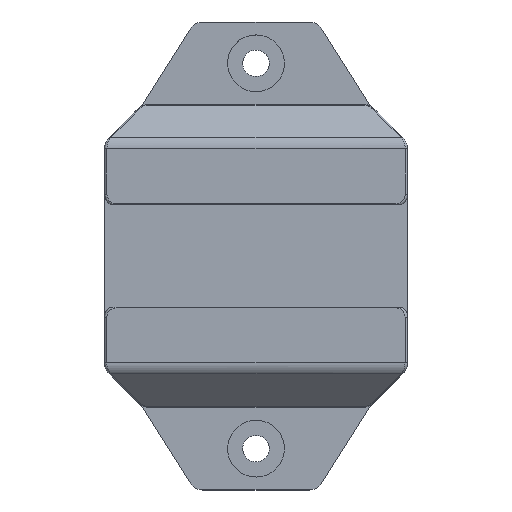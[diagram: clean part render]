
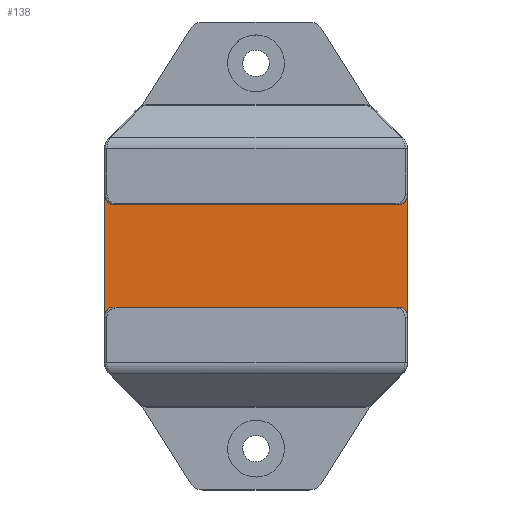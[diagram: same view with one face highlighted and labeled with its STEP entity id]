
A CAD part, top view. The second image highlights one B-rep face of the part: STEP entity #138.
In plain terms, the highlighted planar face has unit normal (0, 0, 1).
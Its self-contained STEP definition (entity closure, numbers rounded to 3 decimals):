
#138=ADVANCED_FACE('',(#282),#2088,.T.);
#282=FACE_OUTER_BOUND('',#426,.T.);
#426=EDGE_LOOP('',(#1028,#1029,#1030,#1031));
#1028=ORIENTED_EDGE('',*,*,#1408,.T.);
#1029=ORIENTED_EDGE('',*,*,#1395,.F.);
#1030=ORIENTED_EDGE('',*,*,#1409,.F.);
#1031=ORIENTED_EDGE('',*,*,#1390,.F.);
#1390=EDGE_CURVE('',#1941,#1942,#1741,.T.);
#1395=EDGE_CURVE('',#1946,#1945,#1746,.T.);
#1408=EDGE_CURVE('',#1941,#1945,#1753,.T.);
#1409=EDGE_CURVE('',#1942,#1946,#1754,.T.);
#1741=B_SPLINE_CURVE_WITH_KNOTS('',1,(#3982,#3983),.UNSPECIFIED.,.F.,.F.,
(2,2),(-69.,-51.),.UNSPECIFIED.);
#1746=B_SPLINE_CURVE_WITH_KNOTS('',1,(#3992,#3993),.UNSPECIFIED.,.F.,.F.,
(2,2),(-149.,-131.),.UNSPECIFIED.);
#1753=B_SPLINE_CURVE_WITH_KNOTS('',1,(#4024,#4025),.UNSPECIFIED.,.F.,.F.,
(2,2),(48.574,88.574),.UNSPECIFIED.);
#1754=B_SPLINE_CURVE_WITH_KNOTS('',1,(#4026,#4027),.UNSPECIFIED.,.F.,.F.,
(2,2),(48.574,88.574),.UNSPECIFIED.);
#1941=VERTEX_POINT('',#3145);
#1942=VERTEX_POINT('',#3146);
#1945=VERTEX_POINT('',#3149);
#1946=VERTEX_POINT('',#3150);
#2088=PLANE('',#2293);
#2293=AXIS2_PLACEMENT_3D('',#2849,#2418,$);
#2418=DIRECTION('',(0.,0.,1.));
#2849=CARTESIAN_POINT('',(293.82,-509.579,18.6));
#3145=CARTESIAN_POINT('',(245.246,-509.579,18.6));
#3146=CARTESIAN_POINT('',(245.246,-527.579,18.6));
#3149=CARTESIAN_POINT('',(205.246,-509.579,18.6));
#3150=CARTESIAN_POINT('',(205.246,-527.579,18.6));
#3982=CARTESIAN_POINT('',(245.246,-509.579,18.6));
#3983=CARTESIAN_POINT('',(245.246,-527.579,18.6));
#3992=CARTESIAN_POINT('',(205.246,-527.579,18.6));
#3993=CARTESIAN_POINT('',(205.246,-509.579,18.6));
#4024=CARTESIAN_POINT('',(245.246,-509.579,18.6));
#4025=CARTESIAN_POINT('',(205.246,-509.579,18.6));
#4026=CARTESIAN_POINT('',(245.246,-527.579,18.6));
#4027=CARTESIAN_POINT('',(205.246,-527.579,18.6));
